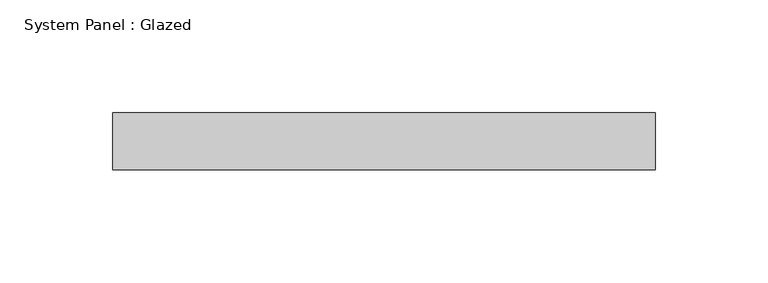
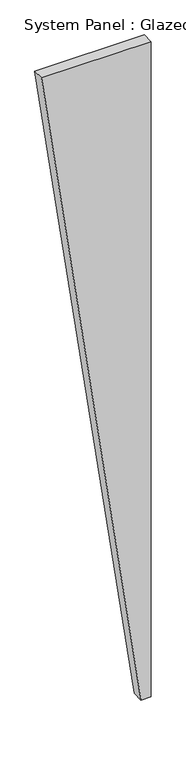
"""IFC4 building model written with IfcOpenShell, lengths in millimetres: plate geometry, System Panel : Glazed."""

from ifc_helpers import new_model, si_unit, frame, origin, place, context, project, spatial, polyline, outline, extrude, source, transform, mapped, element, save


def system_panel_glazed_85b34251(model_context):
    return source(origin(), model_context, "Body", "SweptSolid", [
        extrude(outline(polyline([(0.0, 98.6762588), (0.0, 120.6043167), (1524.0, 120.6043167), (1524.0, -120.6043167), (0.0, 98.6762588)])), frame((0.0, 19.05, 0.0), z_axis=(0.0, 1.0, 0.0), x_axis=(0.0, 0.0, 1.0)), (0.0, 0.0, 1.0), 25.4),
    ])


if __name__ == "__main__":
    model = new_model("IFC4")
    model_context = context("Model", 3, world=origin())
    ifc_project = project(units=[si_unit("LENGTHUNIT", "METRE", prefix="MILLI")], contexts=[model_context])
    site = spatial("IfcSite", under=ifc_project)
    building = spatial("IfcBuilding", under=site)
    placement = place(None, origin())
    system_panel_glazed_shape = system_panel_glazed_85b34251(model_context)
    element("IfcPlate", 1, ObjectType="System Panel : Glazed", at=placement, inside=building, context=model_context, shape_type="MappedRepresentation", body=[
        mapped(system_panel_glazed_shape, transform((0.0, 0.0, 0.0), x_axis=(1.0, 0.0, 0.0), y_axis=(0.0, 1.0, 0.0), z_axis=(0.0, 0.0, 1.0))),
    ])
    save(model, "model.ifc")
